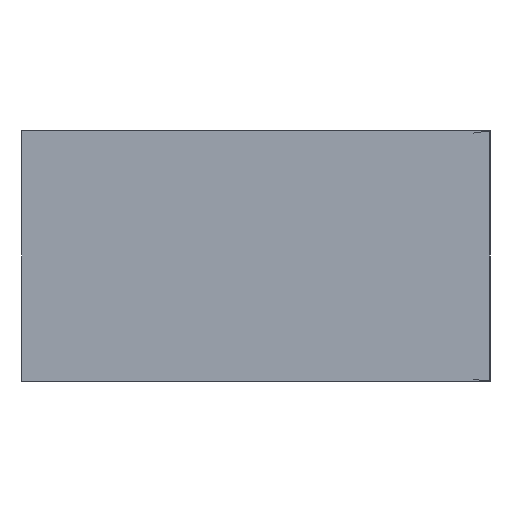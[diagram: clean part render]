
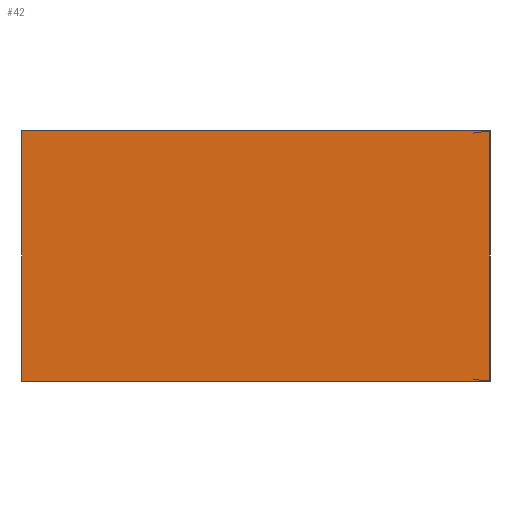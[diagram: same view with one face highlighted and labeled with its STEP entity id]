
A CAD part, left-side view. The second image highlights one B-rep face of the part: STEP entity #42.
In plain terms, the highlighted planar face has unit normal (-1, 0, 0).
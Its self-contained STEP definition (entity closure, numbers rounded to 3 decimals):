
#42 = ADVANCED_FACE( '', ( #86 ), #87, .F. );
#86 = FACE_OUTER_BOUND( '', #133, .T. );
#87 = PLANE( '', #134 );
#133 = EDGE_LOOP( '', ( #189, #190, #191, #192 ) );
#134 = AXIS2_PLACEMENT_3D( '', #193, #194, #195 );
#189 = ORIENTED_EDGE( '', *, *, #259, .F. );
#190 = ORIENTED_EDGE( '', *, *, #261, .T. );
#191 = ORIENTED_EDGE( '', *, *, #262, .F. );
#192 = ORIENTED_EDGE( '', *, *, #263, .F. );
#193 = CARTESIAN_POINT( '', ( -3.5, -29.254, 0. ) );
#194 = DIRECTION( '', ( 1., 0., 0. ) );
#195 = DIRECTION( '', ( 0., 0., -1. ) );
#259 = EDGE_CURVE( '', #293, #291, #295, .T. );
#261 = EDGE_CURVE( '', #293, #297, #298, .T. );
#262 = EDGE_CURVE( '', #299, #297, #300, .T. );
#263 = EDGE_CURVE( '', #291, #299, #301, .T. );
#291 = VERTEX_POINT( '', #337 );
#293 = VERTEX_POINT( '', #340 );
#295 = LINE( '', #343, #344 );
#297 = VERTEX_POINT( '', #346 );
#298 = LINE( '', #347, #348 );
#299 = VERTEX_POINT( '', #349 );
#300 = LINE( '', #350, #351 );
#301 = LINE( '', #352, #353 );
#337 = CARTESIAN_POINT( '', ( -3.5, -29., -7.75 ) );
#340 = CARTESIAN_POINT( '', ( -3.5, -29., 7.75 ) );
#343 = CARTESIAN_POINT( '', ( -3.5, -29., 7.75 ) );
#344 = VECTOR( '', #384, 1000. );
#346 = CARTESIAN_POINT( '', ( -3.5, 0., 7.75 ) );
#347 = CARTESIAN_POINT( '', ( -3.5, -29., 7.75 ) );
#348 = VECTOR( '', #385, 1000. );
#349 = CARTESIAN_POINT( '', ( -3.5, 0., -7.75 ) );
#350 = CARTESIAN_POINT( '', ( -3.5, 0., -7.75 ) );
#351 = VECTOR( '', #386, 1000. );
#352 = CARTESIAN_POINT( '', ( -3.5, -29., -7.75 ) );
#353 = VECTOR( '', #387, 1000. );
#384 = DIRECTION( '', ( 0., 0., -1. ) );
#385 = DIRECTION( '', ( 0., 1., 0. ) );
#386 = DIRECTION( '', ( 0., 0., 1. ) );
#387 = DIRECTION( '', ( 0., 1., 0. ) );
